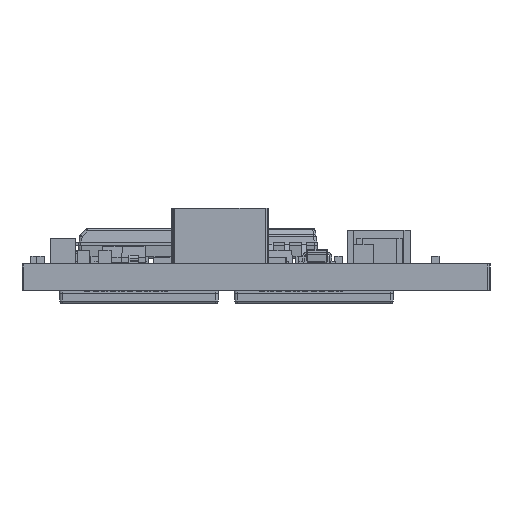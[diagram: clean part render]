
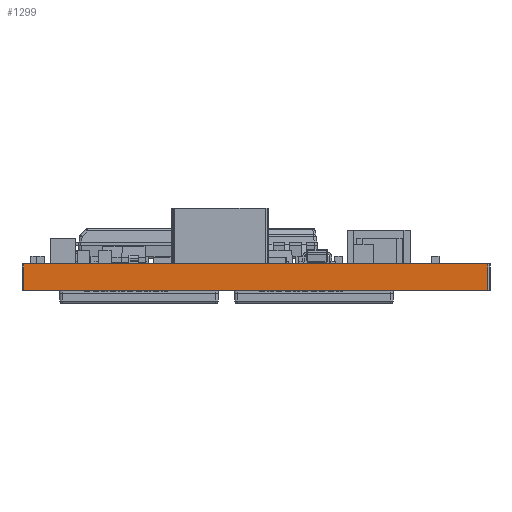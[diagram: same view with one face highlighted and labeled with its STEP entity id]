
A CAD part, left-side view. The second image highlights one B-rep face of the part: STEP entity #1299.
In plain terms, the highlighted planar face has unit normal (-1, 0, 0).
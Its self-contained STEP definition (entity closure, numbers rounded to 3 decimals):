
#1272 = VERTEX_POINT('',#1273);
#1273 = CARTESIAN_POINT('',(-0.127,32.,2.002));
#1280 = EDGE_CURVE('',#1281,#1272,#1283,.T.);
#1281 = VERTEX_POINT('',#1282);
#1282 = CARTESIAN_POINT('',(-0.127,32.,0.));
#1283 = LINE('',#1284,#1285);
#1284 = CARTESIAN_POINT('',(-0.127,32.,0.));
#1285 = VECTOR('',#1286,1.);
#1286 = DIRECTION('',(0.,0.,1.));
#1299 = ADVANCED_FACE('',(#1300),#1325,.F.);
#1300 = FACE_BOUND('',#1301,.F.);
#1301 = EDGE_LOOP('',(#1302,#1303,#1311,#1319));
#1302 = ORIENTED_EDGE('',*,*,#1280,.T.);
#1303 = ORIENTED_EDGE('',*,*,#1304,.T.);
#1304 = EDGE_CURVE('',#1272,#1305,#1307,.T.);
#1305 = VERTEX_POINT('',#1306);
#1306 = CARTESIAN_POINT('',(-0.127,-3.048,2.002));
#1307 = LINE('',#1308,#1309);
#1308 = CARTESIAN_POINT('',(-0.127,32.,2.002));
#1309 = VECTOR('',#1310,1.);
#1310 = DIRECTION('',(0.,-1.,0.));
#1311 = ORIENTED_EDGE('',*,*,#1312,.F.);
#1312 = EDGE_CURVE('',#1313,#1305,#1315,.T.);
#1313 = VERTEX_POINT('',#1314);
#1314 = CARTESIAN_POINT('',(-0.127,-3.048,0.));
#1315 = LINE('',#1316,#1317);
#1316 = CARTESIAN_POINT('',(-0.127,-3.048,0.));
#1317 = VECTOR('',#1318,1.);
#1318 = DIRECTION('',(0.,0.,1.));
#1319 = ORIENTED_EDGE('',*,*,#1320,.F.);
#1320 = EDGE_CURVE('',#1281,#1313,#1321,.T.);
#1321 = LINE('',#1322,#1323);
#1322 = CARTESIAN_POINT('',(-0.127,32.,0.));
#1323 = VECTOR('',#1324,1.);
#1324 = DIRECTION('',(0.,-1.,0.));
#1325 = PLANE('',#1326);
#1326 = AXIS2_PLACEMENT_3D('',#1327,#1328,#1329);
#1327 = CARTESIAN_POINT('',(-0.127,32.,0.));
#1328 = DIRECTION('',(1.,0.,0.));
#1329 = DIRECTION('',(0.,-1.,0.));
